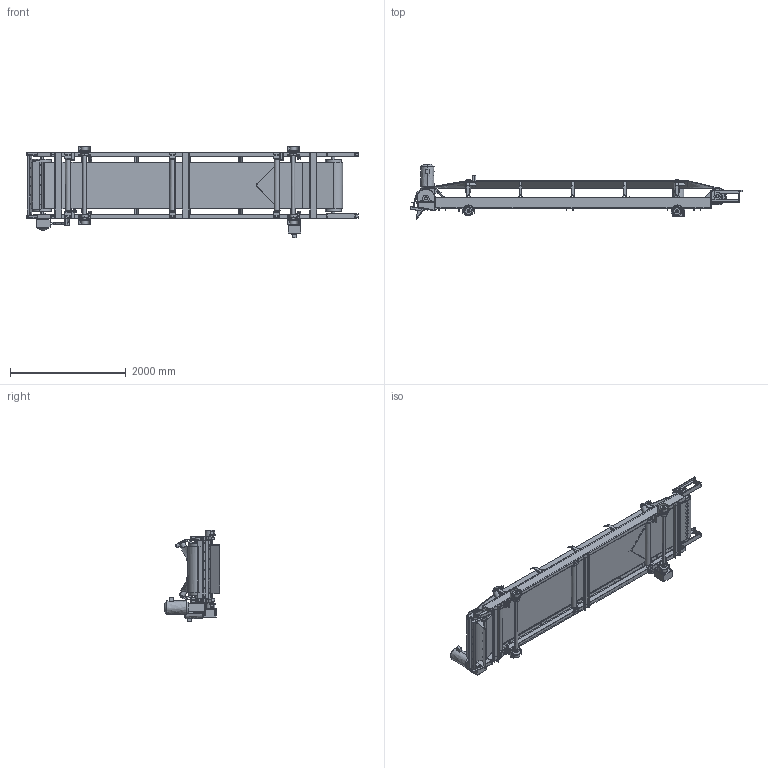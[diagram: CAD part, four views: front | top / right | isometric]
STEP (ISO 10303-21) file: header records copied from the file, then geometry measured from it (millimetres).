
FILE_DESCRIPTION (( 'STEP AP214' ), '1' );
FILE_NAME ('beltconveyor_a008_w800_l5500.STEP', '2024-12-15T04:55:18', ( 'Microsoft' ), ( 'Microsoft' ), 'SwSTEP 2.0', 'SolidWorks 2023', '' );
FILE_SCHEMA (( 'AUTOMOTIVE_DESIGN' ));
Length unit declared in the file: millimetre
Products named in the file (21): Con lan_300.igs; 620CT - bang tai caosu BTCL.igs; beltconveyor_a008_w800_l5500.igs; 620CT - Gia do con lan BTCL_Default_As Machined_SM-FLAT-PATTERN2.igs; 620CT - Gia do con lan BTCL.igs; 620CT - gat cat da chu V_BTCL.igs; con lan chan bien.igs; 620CT - Banh xe bi dong BTCL.igs; o do UCP_UCP209.igs; 620CT - Tang bi dong BTCL.igs; Con lan_900.igs; 620CT - Do motor BTCL.igs; 620CT - Banh xe chu dong BTCL.igs; 620CT - Khung BTCL.igs; o do UCT_UCT210.igs; 620CT - Tang chu dong BTCL.igs; 620CT - Gia do con lan BTCL_gia do con lan btppnl_As Machined_.igs; 620CT - Motor hop so BTCL 5.5Kw.igs; beltconveyor_a008_w800_l5500; o do UCP_UCP210.igs; 620CT - Motor hop so BTCL 1.5Kw.igs
Assembly tree (35 placements, depth 3):
  beltconveyor_a008_w800_l5500
    beltconveyor_a008_w800_l5500.igs
      620CT - Khung BTCL.igs
      o do UCT_UCT210.igs  x2
      o do UCP_UCP209.igs  x2
      620CT - Tang chu dong BTCL.igs
      620CT - Gia do con lan BTCL_Default_As Machined_SM-FLAT-PATTERN2.igs
      Con lan_300.igs  x6
      620CT - Gia do con lan BTCL_gia do con lan btppnl_As Machined_.igs  x3
      620CT - Gia do con lan BTCL.igs
      620CT - bang tai caosu BTCL.igs
      620CT - Tang bi dong BTCL.igs
      620CT - gat cat da chu V_BTCL.igs
      Con lan_900.igs  x3
      con lan chan bien.igs  x2
      o do UCP_UCP210.igs  x4
      620CT - Banh xe bi dong BTCL.igs
      620CT - Banh xe chu dong BTCL.igs
      620CT - Motor hop so BTCL 1.5Kw.igs
      620CT - Motor hop so BTCL 5.5Kw.igs
      620CT - Do motor BTCL.igs
Bounding box: 5727.9 x 961.79 x 1570.5 mm (x, y, z)
Volume: 146326277.9 mm3; surface area: 41519422.8 mm2
Topology: 117 solids, 263 shells, 4009 faces, 10472 edges, 6798 vertices
Faces by surface type: bspline 4009
Entity records: 137357 total; most frequent: CARTESIAN_POINT 85062, ORIENTED_EDGE 15866, EDGE_CURVE 8405, B_SPLINE_CURVE_WITH_KNOTS 7173, VERTEX_POINT 5496, EDGE_LOOP 3755, ADVANCED_FACE 3178, FACE_OUTER_BOUND 3178
